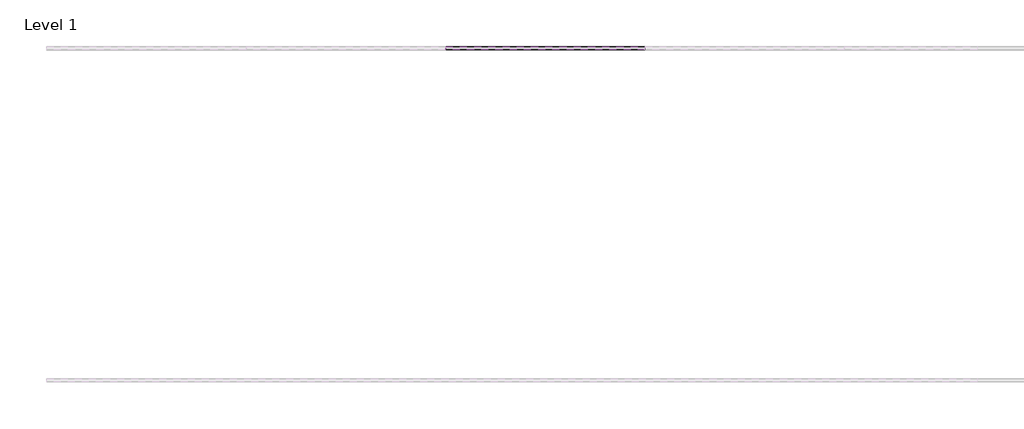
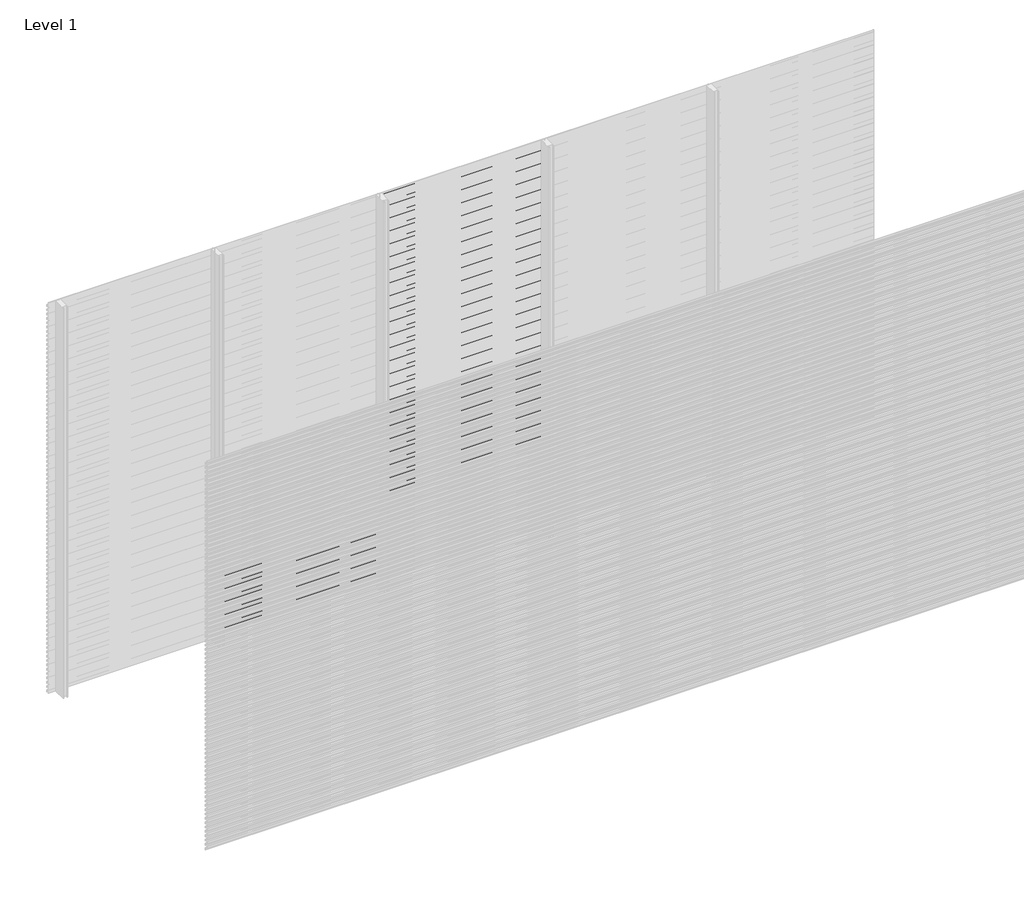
# One storey, part 72 of 507: 84 proxies.
"""IFC4 building model written with IfcOpenShell, lengths in millimetres."""

from ifc_helpers import new_model, si_unit, frame, origin, place, context, project, spatial, polyline, outline, extrude, element, save

model = new_model("IFC4")

# Units and contexts
model_context = context("Model", 3, world=origin())
ifc_project = project(units=[si_unit("LENGTHUNIT", "METRE", prefix="MILLI")], contexts=[model_context])

# Site, building, storey
site = spatial("IfcSite", under=ifc_project)
building = spatial("IfcBuilding", under=site)
storey = spatial("IfcBuildingStorey", under=building, Name="Level 1", Elevation=0.0)

# Proxies
placement = place(None, origin())
element("IfcBuildingElementProxy", 1, Name="Wall Sweeps", at=placement, inside=storey, context=model_context, shape_type="SweptSolid", body=[
    extrude(outline(polyline([(51503.4540136, 442.2), (51503.4540136, 428.7), (51502.2040136, 429.4216933), (51502.2040136, 441.4782281), (51483.0540136, 452.5345698), (51483.0540136, 466.2), (51484.3040136, 466.2), (51484.3040136, 453.2562577), (51503.4540136, 442.2)])), frame((46166.6208099, 0.0, 0.0), z_axis=(1.0, 0.0, 0.0), x_axis=(0.0, 1.0, 0.0)), (0.0, 0.0, 1.0), 1199.9999999),
])
element("IfcBuildingElementProxy", 2, Name="Wall Sweeps", at=placement, inside=storey, context=model_context, shape_type="SweptSolid", body=[
    extrude(outline(polyline([(51503.4540136, 408.9), (51503.4540136, 395.4), (51502.2040136, 396.1216933), (51502.2040136, 408.1782281), (51483.0540136, 419.2345698), (51483.0540136, 432.9), (51484.3040136, 432.9), (51484.3040136, 419.9562577), (51503.4540136, 408.9)])), frame((46166.6208099, 0.0, 0.0), z_axis=(1.0, 0.0, 0.0), x_axis=(0.0, 1.0, 0.0)), (0.0, 0.0, 1.0), 1199.9999999),
])
element("IfcBuildingElementProxy", 3, Name="Wall Sweeps", at=placement, inside=storey, context=model_context, shape_type="SweptSolid", body=[
    extrude(outline(polyline([(51503.4540136, 375.6), (51503.4540136, 362.1), (51502.2040136, 362.8216933), (51502.2040136, 374.8782281), (51483.0540136, 385.9345698), (51483.0540136, 399.6), (51484.3040136, 399.6), (51484.3040136, 386.6562577), (51503.4540136, 375.6)])), frame((46166.6208099, 0.0, 0.0), z_axis=(1.0, 0.0, 0.0), x_axis=(0.0, 1.0, 0.0)), (0.0, 0.0, 1.0), 1199.9999999),
])
element("IfcBuildingElementProxy", 4, Name="Wall Sweeps", at=placement, inside=storey, context=model_context, shape_type="SweptSolid", body=[
    extrude(outline(polyline([(51503.4540136, 342.3), (51503.4540136, 328.8), (51502.2040136, 329.5216933), (51502.2040136, 341.5782281), (51483.0540136, 352.6345698), (51483.0540136, 366.3), (51484.3040136, 366.3), (51484.3040136, 353.3562577), (51503.4540136, 342.3)])), frame((46166.6208099, 0.0, 0.0), z_axis=(1.0, 0.0, 0.0), x_axis=(0.0, 1.0, 0.0)), (0.0, 0.0, 1.0), 1199.9999999),
])
element("IfcBuildingElementProxy", 5, Name="Wall Sweeps", at=placement, inside=storey, context=model_context, shape_type="SweptSolid", body=[
    extrude(outline(polyline([(51503.4540136, 309.0), (51503.4540136, 295.5), (51502.2040136, 296.2216933), (51502.2040136, 308.2782281), (51483.0540136, 319.3345698), (51483.0540136, 333.0), (51484.3040136, 333.0), (51484.3040136, 320.0562577), (51503.4540136, 309.0)])), frame((46166.6208099, 0.0, 0.0), z_axis=(1.0, 0.0, 0.0), x_axis=(0.0, 1.0, 0.0)), (0.0, 0.0, 1.0), 1199.9999999),
])
element("IfcBuildingElementProxy", 6, Name="Wall Sweeps", at=placement, inside=storey, context=model_context, shape_type="SweptSolid", body=[
    extrude(outline(polyline([(51503.4540136, 275.7), (51503.4540136, 262.2), (51502.2040136, 262.9216933), (51502.2040136, 274.9782281), (51483.0540136, 286.0345698), (51483.0540136, 299.7), (51484.3040136, 299.7), (51484.3040136, 286.7562577), (51503.4540136, 275.7)])), frame((46166.6208099, 0.0, 0.0), z_axis=(1.0, 0.0, 0.0), x_axis=(0.0, 1.0, 0.0)), (0.0, 0.0, 1.0), 1199.9999999),
])
element("IfcBuildingElementProxy", 7, Name="Wall Sweeps", at=placement, inside=storey, context=model_context, shape_type="SweptSolid", body=[
    extrude(outline(polyline([(51503.4540136, 242.4), (51503.4540136, 228.9), (51502.2040136, 229.6216933), (51502.2040136, 241.6782281), (51483.0540136, 252.7345698), (51483.0540136, 266.4), (51484.3040136, 266.4), (51484.3040136, 253.4562577), (51503.4540136, 242.4)])), frame((46166.6208099, 0.0, 0.0), z_axis=(1.0, 0.0, 0.0), x_axis=(0.0, 1.0, 0.0)), (0.0, 0.0, 1.0), 1199.9999999),
])
element("IfcBuildingElementProxy", 8, Name="Wall Sweeps", at=placement, inside=storey, context=model_context, shape_type="SweptSolid", body=[
    extrude(outline(polyline([(51503.4540136, 209.1), (51503.4540136, 195.6), (51502.2040136, 196.3216933), (51502.2040136, 208.3782281), (51483.0540136, 219.4345698), (51483.0540136, 233.1), (51484.3040136, 233.1), (51484.3040136, 220.1562577), (51503.4540136, 209.1)])), frame((46166.6208099, 0.0, 0.0), z_axis=(1.0, 0.0, 0.0), x_axis=(0.0, 1.0, 0.0)), (0.0, 0.0, 1.0), 1199.9999999),
])
element("IfcBuildingElementProxy", 9, Name="Wall Sweeps", at=placement, inside=storey, context=model_context, shape_type="SweptSolid", body=[
    extrude(outline(polyline([(51503.4540136, 175.8), (51503.4540136, 162.3), (51502.2040136, 163.0216933), (51502.2040136, 175.0782281), (51483.0540136, 186.1345698), (51483.0540136, 199.8), (51484.3040136, 199.8), (51484.3040136, 186.8562577), (51503.4540136, 175.8)])), frame((46166.6208099, 0.0, 0.0), z_axis=(1.0, 0.0, 0.0), x_axis=(0.0, 1.0, 0.0)), (0.0, 0.0, 1.0), 1199.9999999),
])
element("IfcBuildingElementProxy", 10, Name="Wall Sweeps", at=placement, inside=storey, context=model_context, shape_type="SweptSolid", body=[
    extrude(outline(polyline([(51503.4540136, 142.5), (51503.4540136, 129.0), (51502.2040136, 129.7216933), (51502.2040136, 141.7782281), (51483.0540136, 152.8345698), (51483.0540136, 166.5), (51484.3040136, 166.5), (51484.3040136, 153.5562577), (51503.4540136, 142.5)])), frame((46166.6208099, 0.0, 0.0), z_axis=(1.0, 0.0, 0.0), x_axis=(0.0, 1.0, 0.0)), (0.0, 0.0, 1.0), 1199.9999999),
])
element("IfcBuildingElementProxy", 11, Name="Wall Sweeps", at=placement, inside=storey, context=model_context, shape_type="SweptSolid", body=[
    extrude(outline(polyline([(51503.4540136, 109.2), (51503.4540136, 95.7), (51502.2040136, 96.4216933), (51502.2040136, 108.4782281), (51483.0540136, 119.5345698), (51483.0540136, 133.2), (51484.3040136, 133.2), (51484.3040136, 120.2562577), (51503.4540136, 109.2)])), frame((46166.6208099, 0.0, 0.0), z_axis=(1.0, 0.0, 0.0), x_axis=(0.0, 1.0, 0.0)), (0.0, 0.0, 1.0), 1199.9999999),
])
element("IfcBuildingElementProxy", 12, Name="Wall Sweeps", at=placement, inside=storey, context=model_context, shape_type="SweptSolid", body=[
    extrude(outline(polyline([(51503.4540136, 75.9), (51503.4540136, 62.4), (51502.2040136, 63.1216933), (51502.2040136, 75.1782281), (51483.0540136, 86.2345698), (51483.0540136, 99.9), (51484.3040136, 99.9), (51484.3040136, 86.9562577), (51503.4540136, 75.9)])), frame((46166.6208099, 0.0, 0.0), z_axis=(1.0, 0.0, 0.0), x_axis=(0.0, 1.0, 0.0)), (0.0, 0.0, 1.0), 1199.9999999),
])
element("IfcBuildingElementProxy", 13, Name="Wall Sweeps", at=placement, inside=storey, context=model_context, shape_type="SweptSolid", body=[
    extrude(outline(polyline([(51503.4540136, 42.6), (51503.4540136, 29.1), (51502.2040136, 29.8216933), (51502.2040136, 41.8782281), (51483.0540136, 52.9345698), (51483.0540136, 66.6), (51484.3040136, 66.6), (51484.3040136, 53.6562577), (51503.4540136, 42.6)])), frame((46166.6208099, 0.0, 0.0), z_axis=(1.0, 0.0, 0.0), x_axis=(0.0, 1.0, 0.0)), (0.0, 0.0, 1.0), 1199.9999999),
])
element("IfcBuildingElementProxy", 14, Name="Wall Sweeps", at=placement, inside=storey, context=model_context, shape_type="SweptSolid", body=[
    extrude(outline(polyline([(51503.4540136, 9.3), (51503.4540136, -4.2), (51502.2040136, -3.4783067), (51502.2040136, 8.5782281), (51483.0540136, 19.6345698), (51483.0540136, 33.3), (51484.3040136, 33.3), (51484.3040136, 20.3562577), (51503.4540136, 9.3)])), frame((46166.6208099, 0.0, 0.0), z_axis=(1.0, 0.0, 0.0), x_axis=(0.0, 1.0, 0.0)), (0.0, 0.0, 1.0), 1199.9999999),
])
element("IfcBuildingElementProxy", 15, Name="Wall Sweeps", at=placement, inside=storey, context=model_context, shape_type="SweptSolid", body=[
    extrude(outline(polyline([(51503.4540136, 2973.0), (51503.4540136, 2959.5), (51502.2040136, 2960.2216933), (51502.2040136, 2972.2782281), (51483.0540136, 2983.3345698), (51483.0540136, 2997.0), (51484.3040136, 2997.0), (51484.3040136, 2984.0562577), (51503.4540136, 2973.0)])), frame((47366.6208097, 0.0, 0.0), z_axis=(1.0, 0.0, 0.0), x_axis=(0.0, 1.0, 0.0)), (0.0, 0.0, 1.0), 1199.9999999),
])
element("IfcBuildingElementProxy", 16, Name="Wall Sweeps", at=placement, inside=storey, context=model_context, shape_type="SweptSolid", body=[
    extrude(outline(polyline([(51503.4540136, 2939.7), (51503.4540136, 2926.2), (51502.2040136, 2926.9216933), (51502.2040136, 2938.9782281), (51483.0540136, 2950.0345698), (51483.0540136, 2963.7), (51484.3040136, 2963.7), (51484.3040136, 2950.7562577), (51503.4540136, 2939.7)])), frame((47366.6208097, 0.0, 0.0), z_axis=(1.0, 0.0, 0.0), x_axis=(0.0, 1.0, 0.0)), (0.0, 0.0, 1.0), 1199.9999999),
])
element("IfcBuildingElementProxy", 17, Name="Wall Sweeps", at=placement, inside=storey, context=model_context, shape_type="SweptSolid", body=[
    extrude(outline(polyline([(51503.4540136, 2906.4), (51503.4540136, 2892.9), (51502.2040136, 2893.6216933), (51502.2040136, 2905.6782281), (51483.0540136, 2916.7345698), (51483.0540136, 2930.4), (51484.3040136, 2930.4), (51484.3040136, 2917.4562577), (51503.4540136, 2906.4)])), frame((47366.6208097, 0.0, 0.0), z_axis=(1.0, 0.0, 0.0), x_axis=(0.0, 1.0, 0.0)), (0.0, 0.0, 1.0), 1199.9999999),
])
element("IfcBuildingElementProxy", 18, Name="Wall Sweeps", at=placement, inside=storey, context=model_context, shape_type="SweptSolid", body=[
    extrude(outline(polyline([(51503.4540136, 2873.1), (51503.4540136, 2859.6), (51502.2040136, 2860.3216933), (51502.2040136, 2872.3782281), (51483.0540136, 2883.4345698), (51483.0540136, 2897.1), (51484.3040136, 2897.1), (51484.3040136, 2884.1562577), (51503.4540136, 2873.1)])), frame((47366.6208097, 0.0, 0.0), z_axis=(1.0, 0.0, 0.0), x_axis=(0.0, 1.0, 0.0)), (0.0, 0.0, 1.0), 1199.9999999),
])
element("IfcBuildingElementProxy", 19, Name="Wall Sweeps", at=placement, inside=storey, context=model_context, shape_type="SweptSolid", body=[
    extrude(outline(polyline([(51503.4540136, 2839.8), (51503.4540136, 2826.3), (51502.2040136, 2827.0216933), (51502.2040136, 2839.0782281), (51483.0540136, 2850.1345698), (51483.0540136, 2863.8), (51484.3040136, 2863.8), (51484.3040136, 2850.8562577), (51503.4540136, 2839.8)])), frame((47366.6208097, 0.0, 0.0), z_axis=(1.0, 0.0, 0.0), x_axis=(0.0, 1.0, 0.0)), (0.0, 0.0, 1.0), 1199.9999999),
])
element("IfcBuildingElementProxy", 20, Name="Wall Sweeps", at=placement, inside=storey, context=model_context, shape_type="SweptSolid", body=[
    extrude(outline(polyline([(51503.4540136, 2806.5), (51503.4540136, 2793.0), (51502.2040136, 2793.7216933), (51502.2040136, 2805.7782281), (51483.0540136, 2816.8345698), (51483.0540136, 2830.5), (51484.3040136, 2830.5), (51484.3040136, 2817.5562577), (51503.4540136, 2806.5)])), frame((47366.6208097, 0.0, 0.0), z_axis=(1.0, 0.0, 0.0), x_axis=(0.0, 1.0, 0.0)), (0.0, 0.0, 1.0), 1199.9999999),
])
element("IfcBuildingElementProxy", 21, Name="Wall Sweeps", at=placement, inside=storey, context=model_context, shape_type="SweptSolid", body=[
    extrude(outline(polyline([(51503.4540136, 2773.2), (51503.4540136, 2759.7), (51502.2040136, 2760.4216933), (51502.2040136, 2772.4782281), (51483.0540136, 2783.5345698), (51483.0540136, 2797.2), (51484.3040136, 2797.2), (51484.3040136, 2784.2562577), (51503.4540136, 2773.2)])), frame((47366.6208097, 0.0, 0.0), z_axis=(1.0, 0.0, 0.0), x_axis=(0.0, 1.0, 0.0)), (0.0, 0.0, 1.0), 1199.9999999),
])
element("IfcBuildingElementProxy", 22, Name="Wall Sweeps", at=placement, inside=storey, context=model_context, shape_type="SweptSolid", body=[
    extrude(outline(polyline([(51503.4540136, 2739.9), (51503.4540136, 2726.4), (51502.2040136, 2727.1216933), (51502.2040136, 2739.1782281), (51483.0540136, 2750.2345698), (51483.0540136, 2763.9), (51484.3040136, 2763.9), (51484.3040136, 2750.9562577), (51503.4540136, 2739.9)])), frame((47366.6208097, 0.0, 0.0), z_axis=(1.0, 0.0, 0.0), x_axis=(0.0, 1.0, 0.0)), (0.0, 0.0, 1.0), 1199.9999999),
])
element("IfcBuildingElementProxy", 23, Name="Wall Sweeps", at=placement, inside=storey, context=model_context, shape_type="SweptSolid", body=[
    extrude(outline(polyline([(51503.4540136, 2706.6), (51503.4540136, 2693.1), (51502.2040136, 2693.8216933), (51502.2040136, 2705.8782281), (51483.0540136, 2716.9345698), (51483.0540136, 2730.6), (51484.3040136, 2730.6), (51484.3040136, 2717.6562577), (51503.4540136, 2706.6)])), frame((47366.6208097, 0.0, 0.0), z_axis=(1.0, 0.0, 0.0), x_axis=(0.0, 1.0, 0.0)), (0.0, 0.0, 1.0), 1199.9999999),
])
element("IfcBuildingElementProxy", 24, Name="Wall Sweeps", at=placement, inside=storey, context=model_context, shape_type="SweptSolid", body=[
    extrude(outline(polyline([(51503.4540136, 2673.3), (51503.4540136, 2659.8), (51502.2040136, 2660.5216933), (51502.2040136, 2672.5782281), (51483.0540136, 2683.6345698), (51483.0540136, 2697.3), (51484.3040136, 2697.3), (51484.3040136, 2684.3562577), (51503.4540136, 2673.3)])), frame((47366.6208097, 0.0, 0.0), z_axis=(1.0, 0.0, 0.0), x_axis=(0.0, 1.0, 0.0)), (0.0, 0.0, 1.0), 1199.9999999),
])
element("IfcBuildingElementProxy", 25, Name="Wall Sweeps", at=placement, inside=storey, context=model_context, shape_type="SweptSolid", body=[
    extrude(outline(polyline([(51503.4540136, 2640.0), (51503.4540136, 2626.5), (51502.2040136, 2627.2216933), (51502.2040136, 2639.2782281), (51483.0540136, 2650.3345698), (51483.0540136, 2664.0), (51484.3040136, 2664.0), (51484.3040136, 2651.0562577), (51503.4540136, 2640.0)])), frame((47366.6208097, 0.0, 0.0), z_axis=(1.0, 0.0, 0.0), x_axis=(0.0, 1.0, 0.0)), (0.0, 0.0, 1.0), 1199.9999999),
])
element("IfcBuildingElementProxy", 26, Name="Wall Sweeps", at=placement, inside=storey, context=model_context, shape_type="SweptSolid", body=[
    extrude(outline(polyline([(51503.4540136, 2606.7), (51503.4540136, 2593.2), (51502.2040136, 2593.9216933), (51502.2040136, 2605.9782281), (51483.0540136, 2617.0345698), (51483.0540136, 2630.7), (51484.3040136, 2630.7), (51484.3040136, 2617.7562577), (51503.4540136, 2606.7)])), frame((47366.6208097, 0.0, 0.0), z_axis=(1.0, 0.0, 0.0), x_axis=(0.0, 1.0, 0.0)), (0.0, 0.0, 1.0), 1199.9999999),
])
element("IfcBuildingElementProxy", 27, Name="Wall Sweeps", at=placement, inside=storey, context=model_context, shape_type="SweptSolid", body=[
    extrude(outline(polyline([(51503.4540136, 2573.4), (51503.4540136, 2559.9), (51502.2040136, 2560.6216933), (51502.2040136, 2572.6782281), (51483.0540136, 2583.7345698), (51483.0540136, 2597.4), (51484.3040136, 2597.4), (51484.3040136, 2584.4562577), (51503.4540136, 2573.4)])), frame((47366.6208097, 0.0, 0.0), z_axis=(1.0, 0.0, 0.0), x_axis=(0.0, 1.0, 0.0)), (0.0, 0.0, 1.0), 1199.9999999),
])
element("IfcBuildingElementProxy", 28, Name="Wall Sweeps", at=placement, inside=storey, context=model_context, shape_type="SweptSolid", body=[
    extrude(outline(polyline([(51503.4540136, 2540.1), (51503.4540136, 2526.6), (51502.2040136, 2527.3216933), (51502.2040136, 2539.3782281), (51483.0540136, 2550.4345698), (51483.0540136, 2564.1), (51484.3040136, 2564.1), (51484.3040136, 2551.1562577), (51503.4540136, 2540.1)])), frame((47366.6208097, 0.0, 0.0), z_axis=(1.0, 0.0, 0.0), x_axis=(0.0, 1.0, 0.0)), (0.0, 0.0, 1.0), 1199.9999999),
])
element("IfcBuildingElementProxy", 29, Name="Wall Sweeps", at=placement, inside=storey, context=model_context, shape_type="SweptSolid", body=[
    extrude(outline(polyline([(51503.4540136, 2506.8), (51503.4540136, 2493.3), (51502.2040136, 2494.0216933), (51502.2040136, 2506.0782281), (51483.0540136, 2517.1345698), (51483.0540136, 2530.8), (51484.3040136, 2530.8), (51484.3040136, 2517.8562577), (51503.4540136, 2506.8)])), frame((47366.6208097, 0.0, 0.0), z_axis=(1.0, 0.0, 0.0), x_axis=(0.0, 1.0, 0.0)), (0.0, 0.0, 1.0), 1199.9999999),
])
element("IfcBuildingElementProxy", 30, Name="Wall Sweeps", at=placement, inside=storey, context=model_context, shape_type="SweptSolid", body=[
    extrude(outline(polyline([(51503.4540136, 2473.5), (51503.4540136, 2460.0), (51502.2040136, 2460.7216933), (51502.2040136, 2472.7782281), (51483.0540136, 2483.8345698), (51483.0540136, 2497.5), (51484.3040136, 2497.5), (51484.3040136, 2484.5562577), (51503.4540136, 2473.5)])), frame((47366.6208097, 0.0, 0.0), z_axis=(1.0, 0.0, 0.0), x_axis=(0.0, 1.0, 0.0)), (0.0, 0.0, 1.0), 1199.9999999),
])
element("IfcBuildingElementProxy", 31, Name="Wall Sweeps", at=placement, inside=storey, context=model_context, shape_type="SweptSolid", body=[
    extrude(outline(polyline([(51503.4540136, 2440.2), (51503.4540136, 2426.7), (51502.2040136, 2427.4216933), (51502.2040136, 2439.4782281), (51483.0540136, 2450.5345698), (51483.0540136, 2464.2), (51484.3040136, 2464.2), (51484.3040136, 2451.2562577), (51503.4540136, 2440.2)])), frame((47366.6208097, 0.0, 0.0), z_axis=(1.0, 0.0, 0.0), x_axis=(0.0, 1.0, 0.0)), (0.0, 0.0, 1.0), 1199.9999999),
])
element("IfcBuildingElementProxy", 32, Name="Wall Sweeps", at=placement, inside=storey, context=model_context, shape_type="SweptSolid", body=[
    extrude(outline(polyline([(51503.4540136, 2406.9), (51503.4540136, 2393.4), (51502.2040136, 2394.1216933), (51502.2040136, 2406.1782281), (51483.0540136, 2417.2345698), (51483.0540136, 2430.9), (51484.3040136, 2430.9), (51484.3040136, 2417.9562577), (51503.4540136, 2406.9)])), frame((47366.6208097, 0.0, 0.0), z_axis=(1.0, 0.0, 0.0), x_axis=(0.0, 1.0, 0.0)), (0.0, 0.0, 1.0), 1199.9999999),
])
element("IfcBuildingElementProxy", 33, Name="Wall Sweeps", at=placement, inside=storey, context=model_context, shape_type="SweptSolid", body=[
    extrude(outline(polyline([(51503.4540136, 2373.6), (51503.4540136, 2360.1), (51502.2040136, 2360.8216933), (51502.2040136, 2372.8782281), (51483.0540136, 2383.9345698), (51483.0540136, 2397.6), (51484.3040136, 2397.6), (51484.3040136, 2384.6562577), (51503.4540136, 2373.6)])), frame((47366.6208097, 0.0, 0.0), z_axis=(1.0, 0.0, 0.0), x_axis=(0.0, 1.0, 0.0)), (0.0, 0.0, 1.0), 1199.9999999),
])
element("IfcBuildingElementProxy", 34, Name="Wall Sweeps", at=placement, inside=storey, context=model_context, shape_type="SweptSolid", body=[
    extrude(outline(polyline([(51503.4540136, 2340.3), (51503.4540136, 2326.8), (51502.2040136, 2327.5216933), (51502.2040136, 2339.5782281), (51483.0540136, 2350.6345698), (51483.0540136, 2364.3), (51484.3040136, 2364.3), (51484.3040136, 2351.3562577), (51503.4540136, 2340.3)])), frame((47366.6208097, 0.0, 0.0), z_axis=(1.0, 0.0, 0.0), x_axis=(0.0, 1.0, 0.0)), (0.0, 0.0, 1.0), 1199.9999999),
])
element("IfcBuildingElementProxy", 35, Name="Wall Sweeps", at=placement, inside=storey, context=model_context, shape_type="SweptSolid", body=[
    extrude(outline(polyline([(51503.4540136, 2307.0), (51503.4540136, 2293.5), (51502.2040136, 2294.2216933), (51502.2040136, 2306.2782281), (51483.0540136, 2317.3345698), (51483.0540136, 2331.0), (51484.3040136, 2331.0), (51484.3040136, 2318.0562577), (51503.4540136, 2307.0)])), frame((47366.6208097, 0.0, 0.0), z_axis=(1.0, 0.0, 0.0), x_axis=(0.0, 1.0, 0.0)), (0.0, 0.0, 1.0), 1199.9999999),
])
element("IfcBuildingElementProxy", 36, Name="Wall Sweeps", at=placement, inside=storey, context=model_context, shape_type="SweptSolid", body=[
    extrude(outline(polyline([(51503.4540136, 2273.7), (51503.4540136, 2260.2), (51502.2040136, 2260.9216933), (51502.2040136, 2272.9782281), (51483.0540136, 2284.0345698), (51483.0540136, 2297.7), (51484.3040136, 2297.7), (51484.3040136, 2284.7562577), (51503.4540136, 2273.7)])), frame((47366.6208097, 0.0, 0.0), z_axis=(1.0, 0.0, 0.0), x_axis=(0.0, 1.0, 0.0)), (0.0, 0.0, 1.0), 1199.9999999),
])
element("IfcBuildingElementProxy", 37, Name="Wall Sweeps", at=placement, inside=storey, context=model_context, shape_type="SweptSolid", body=[
    extrude(outline(polyline([(51503.4540136, 2240.4), (51503.4540136, 2226.9), (51502.2040136, 2227.6216933), (51502.2040136, 2239.6782281), (51483.0540136, 2250.7345698), (51483.0540136, 2264.4), (51484.3040136, 2264.4), (51484.3040136, 2251.4562577), (51503.4540136, 2240.4)])), frame((47366.6208097, 0.0, 0.0), z_axis=(1.0, 0.0, 0.0), x_axis=(0.0, 1.0, 0.0)), (0.0, 0.0, 1.0), 1199.9999999),
])
element("IfcBuildingElementProxy", 38, Name="Wall Sweeps", at=placement, inside=storey, context=model_context, shape_type="SweptSolid", body=[
    extrude(outline(polyline([(51503.4540136, 2207.1), (51503.4540136, 2193.6), (51502.2040136, 2194.3216933), (51502.2040136, 2206.3782281), (51483.0540136, 2217.4345698), (51483.0540136, 2231.1), (51484.3040136, 2231.1), (51484.3040136, 2218.1562577), (51503.4540136, 2207.1)])), frame((47366.6208097, 0.0, 0.0), z_axis=(1.0, 0.0, 0.0), x_axis=(0.0, 1.0, 0.0)), (0.0, 0.0, 1.0), 1199.9999999),
])
element("IfcBuildingElementProxy", 39, Name="Wall Sweeps", at=placement, inside=storey, context=model_context, shape_type="SweptSolid", body=[
    extrude(outline(polyline([(51503.4540136, 2173.8), (51503.4540136, 2160.3), (51502.2040136, 2161.0216933), (51502.2040136, 2173.0782281), (51483.0540136, 2184.1345698), (51483.0540136, 2197.8), (51484.3040136, 2197.8), (51484.3040136, 2184.8562577), (51503.4540136, 2173.8)])), frame((47366.6208097, 0.0, 0.0), z_axis=(1.0, 0.0, 0.0), x_axis=(0.0, 1.0, 0.0)), (0.0, 0.0, 1.0), 1199.9999999),
])
element("IfcBuildingElementProxy", 40, Name="Wall Sweeps", at=placement, inside=storey, context=model_context, shape_type="SweptSolid", body=[
    extrude(outline(polyline([(51503.4540136, 2140.5), (51503.4540136, 2127.0), (51502.2040136, 2127.7216933), (51502.2040136, 2139.7782281), (51483.0540136, 2150.8345698), (51483.0540136, 2164.5), (51484.3040136, 2164.5), (51484.3040136, 2151.5562577), (51503.4540136, 2140.5)])), frame((47366.6208097, 0.0, 0.0), z_axis=(1.0, 0.0, 0.0), x_axis=(0.0, 1.0, 0.0)), (0.0, 0.0, 1.0), 1199.9999999),
])
element("IfcBuildingElementProxy", 41, Name="Wall Sweeps", at=placement, inside=storey, context=model_context, shape_type="SweptSolid", body=[
    extrude(outline(polyline([(51503.4540136, 2107.2), (51503.4540136, 2093.7), (51502.2040136, 2094.4216933), (51502.2040136, 2106.4782281), (51483.0540136, 2117.5345698), (51483.0540136, 2131.2), (51484.3040136, 2131.2), (51484.3040136, 2118.2562577), (51503.4540136, 2107.2)])), frame((47366.6208097, 0.0, 0.0), z_axis=(1.0, 0.0, 0.0), x_axis=(0.0, 1.0, 0.0)), (0.0, 0.0, 1.0), 1199.9999999),
])
element("IfcBuildingElementProxy", 42, Name="Wall Sweeps", at=placement, inside=storey, context=model_context, shape_type="SweptSolid", body=[
    extrude(outline(polyline([(51503.4540136, 2073.9), (51503.4540136, 2060.4), (51502.2040136, 2061.1216933), (51502.2040136, 2073.1782281), (51483.0540136, 2084.2345698), (51483.0540136, 2097.9), (51484.3040136, 2097.9), (51484.3040136, 2084.9562577), (51503.4540136, 2073.9)])), frame((47366.6208097, 0.0, 0.0), z_axis=(1.0, 0.0, 0.0), x_axis=(0.0, 1.0, 0.0)), (0.0, 0.0, 1.0), 1199.9999999),
])
element("IfcBuildingElementProxy", 43, Name="Wall Sweeps", at=placement, inside=storey, context=model_context, shape_type="SweptSolid", body=[
    extrude(outline(polyline([(51503.4540136, 2040.6), (51503.4540136, 2027.1), (51502.2040136, 2027.8216933), (51502.2040136, 2039.8782281), (51483.0540136, 2050.9345698), (51483.0540136, 2064.6), (51484.3040136, 2064.6), (51484.3040136, 2051.6562577), (51503.4540136, 2040.6)])), frame((47366.6208097, 0.0, 0.0), z_axis=(1.0, 0.0, 0.0), x_axis=(0.0, 1.0, 0.0)), (0.0, 0.0, 1.0), 1199.9999999),
])
element("IfcBuildingElementProxy", 44, Name="Wall Sweeps", at=placement, inside=storey, context=model_context, shape_type="SweptSolid", body=[
    extrude(outline(polyline([(51503.4540136, 2007.3), (51503.4540136, 1993.8), (51502.2040136, 1994.5216933), (51502.2040136, 2006.5782281), (51483.0540136, 2017.6345698), (51483.0540136, 2031.3), (51484.3040136, 2031.3), (51484.3040136, 2018.3562577), (51503.4540136, 2007.3)])), frame((47366.6208097, 0.0, 0.0), z_axis=(1.0, 0.0, 0.0), x_axis=(0.0, 1.0, 0.0)), (0.0, 0.0, 1.0), 1199.9999999),
])
element("IfcBuildingElementProxy", 45, Name="Wall Sweeps", at=placement, inside=storey, context=model_context, shape_type="SweptSolid", body=[
    extrude(outline(polyline([(51503.4540136, 1974.0), (51503.4540136, 1960.5), (51502.2040136, 1961.2216933), (51502.2040136, 1973.2782281), (51483.0540136, 1984.3345698), (51483.0540136, 1998.0), (51484.3040136, 1998.0), (51484.3040136, 1985.0562577), (51503.4540136, 1974.0)])), frame((47366.6208097, 0.0, 0.0), z_axis=(1.0, 0.0, 0.0), x_axis=(0.0, 1.0, 0.0)), (0.0, 0.0, 1.0), 1199.9999999),
])
element("IfcBuildingElementProxy", 46, Name="Wall Sweeps", at=placement, inside=storey, context=model_context, shape_type="SweptSolid", body=[
    extrude(outline(polyline([(51503.4540136, 1940.7), (51503.4540136, 1927.2), (51502.2040136, 1927.9216933), (51502.2040136, 1939.9782281), (51483.0540136, 1951.0345698), (51483.0540136, 1964.7), (51484.3040136, 1964.7), (51484.3040136, 1951.7562577), (51503.4540136, 1940.7)])), frame((47366.6208097, 0.0, 0.0), z_axis=(1.0, 0.0, 0.0), x_axis=(0.0, 1.0, 0.0)), (0.0, 0.0, 1.0), 1199.9999999),
])
element("IfcBuildingElementProxy", 47, Name="Wall Sweeps", at=placement, inside=storey, context=model_context, shape_type="SweptSolid", body=[
    extrude(outline(polyline([(51503.4540136, 1907.4), (51503.4540136, 1893.9), (51502.2040136, 1894.6216933), (51502.2040136, 1906.6782281), (51483.0540136, 1917.7345698), (51483.0540136, 1931.4), (51484.3040136, 1931.4), (51484.3040136, 1918.4562577), (51503.4540136, 1907.4)])), frame((47366.6208097, 0.0, 0.0), z_axis=(1.0, 0.0, 0.0), x_axis=(0.0, 1.0, 0.0)), (0.0, 0.0, 1.0), 1199.9999999),
])
element("IfcBuildingElementProxy", 48, Name="Wall Sweeps", at=placement, inside=storey, context=model_context, shape_type="SweptSolid", body=[
    extrude(outline(polyline([(51503.4540136, 1874.1), (51503.4540136, 1860.6), (51502.2040136, 1861.3216933), (51502.2040136, 1873.3782281), (51483.0540136, 1884.4345698), (51483.0540136, 1898.1), (51484.3040136, 1898.1), (51484.3040136, 1885.1562577), (51503.4540136, 1874.1)])), frame((47366.6208097, 0.0, 0.0), z_axis=(1.0, 0.0, 0.0), x_axis=(0.0, 1.0, 0.0)), (0.0, 0.0, 1.0), 1199.9999999),
])
element("IfcBuildingElementProxy", 49, Name="Wall Sweeps", at=placement, inside=storey, context=model_context, shape_type="SweptSolid", body=[
    extrude(outline(polyline([(51503.4540136, 1840.8), (51503.4540136, 1827.3), (51502.2040136, 1828.0216933), (51502.2040136, 1840.0782281), (51483.0540136, 1851.1345698), (51483.0540136, 1864.8), (51484.3040136, 1864.8), (51484.3040136, 1851.8562577), (51503.4540136, 1840.8)])), frame((47366.6208097, 0.0, 0.0), z_axis=(1.0, 0.0, 0.0), x_axis=(0.0, 1.0, 0.0)), (0.0, 0.0, 1.0), 1199.9999999),
])
element("IfcBuildingElementProxy", 50, Name="Wall Sweeps", at=placement, inside=storey, context=model_context, shape_type="SweptSolid", body=[
    extrude(outline(polyline([(51503.4540136, 1807.5), (51503.4540136, 1794.0), (51502.2040136, 1794.7216933), (51502.2040136, 1806.7782281), (51483.0540136, 1817.8345698), (51483.0540136, 1831.5), (51484.3040136, 1831.5), (51484.3040136, 1818.5562577), (51503.4540136, 1807.5)])), frame((47366.6208097, 0.0, 0.0), z_axis=(1.0, 0.0, 0.0), x_axis=(0.0, 1.0, 0.0)), (0.0, 0.0, 1.0), 1199.9999999),
])
element("IfcBuildingElementProxy", 51, Name="Wall Sweeps", at=placement, inside=storey, context=model_context, shape_type="SweptSolid", body=[
    extrude(outline(polyline([(51503.4540136, 1774.2), (51503.4540136, 1760.7), (51502.2040136, 1761.4216933), (51502.2040136, 1773.4782281), (51483.0540136, 1784.5345698), (51483.0540136, 1798.2), (51484.3040136, 1798.2), (51484.3040136, 1785.2562577), (51503.4540136, 1774.2)])), frame((47366.6208097, 0.0, 0.0), z_axis=(1.0, 0.0, 0.0), x_axis=(0.0, 1.0, 0.0)), (0.0, 0.0, 1.0), 1199.9999999),
])
element("IfcBuildingElementProxy", 52, Name="Wall Sweeps", at=placement, inside=storey, context=model_context, shape_type="SweptSolid", body=[
    extrude(outline(polyline([(51503.4540136, 1740.9), (51503.4540136, 1727.4), (51502.2040136, 1728.1216933), (51502.2040136, 1740.1782281), (51483.0540136, 1751.2345698), (51483.0540136, 1764.9), (51484.3040136, 1764.9), (51484.3040136, 1751.9562577), (51503.4540136, 1740.9)])), frame((47366.6208097, 0.0, 0.0), z_axis=(1.0, 0.0, 0.0), x_axis=(0.0, 1.0, 0.0)), (0.0, 0.0, 1.0), 1199.9999999),
])
element("IfcBuildingElementProxy", 53, Name="Wall Sweeps", at=placement, inside=storey, context=model_context, shape_type="SweptSolid", body=[
    extrude(outline(polyline([(51503.4540136, 1707.6), (51503.4540136, 1694.1), (51502.2040136, 1694.8216933), (51502.2040136, 1706.8782281), (51483.0540136, 1717.9345698), (51483.0540136, 1731.6), (51484.3040136, 1731.6), (51484.3040136, 1718.6562577), (51503.4540136, 1707.6)])), frame((47366.6208097, 0.0, 0.0), z_axis=(1.0, 0.0, 0.0), x_axis=(0.0, 1.0, 0.0)), (0.0, 0.0, 1.0), 1199.9999999),
])
element("IfcBuildingElementProxy", 54, Name="Wall Sweeps", at=placement, inside=storey, context=model_context, shape_type="SweptSolid", body=[
    extrude(outline(polyline([(51503.4540136, 1674.3), (51503.4540136, 1660.8), (51502.2040136, 1661.5216933), (51502.2040136, 1673.5782281), (51483.0540136, 1684.6345698), (51483.0540136, 1698.3), (51484.3040136, 1698.3), (51484.3040136, 1685.3562577), (51503.4540136, 1674.3)])), frame((47366.6208097, 0.0, 0.0), z_axis=(1.0, 0.0, 0.0), x_axis=(0.0, 1.0, 0.0)), (0.0, 0.0, 1.0), 1199.9999999),
])
element("IfcBuildingElementProxy", 55, Name="Wall Sweeps", at=placement, inside=storey, context=model_context, shape_type="SweptSolid", body=[
    extrude(outline(polyline([(51503.4540136, 1641.0), (51503.4540136, 1627.5), (51502.2040136, 1628.2216933), (51502.2040136, 1640.2782281), (51483.0540136, 1651.3345698), (51483.0540136, 1665.0), (51484.3040136, 1665.0), (51484.3040136, 1652.0562577), (51503.4540136, 1641.0)])), frame((47366.6208097, 0.0, 0.0), z_axis=(1.0, 0.0, 0.0), x_axis=(0.0, 1.0, 0.0)), (0.0, 0.0, 1.0), 1199.9999999),
])
element("IfcBuildingElementProxy", 56, Name="Wall Sweeps", at=placement, inside=storey, context=model_context, shape_type="SweptSolid", body=[
    extrude(outline(polyline([(51503.4540136, 1607.7), (51503.4540136, 1594.2), (51502.2040136, 1594.9216933), (51502.2040136, 1606.9782281), (51483.0540136, 1618.0345698), (51483.0540136, 1631.7), (51484.3040136, 1631.7), (51484.3040136, 1618.7562577), (51503.4540136, 1607.7)])), frame((47366.6208097, 0.0, 0.0), z_axis=(1.0, 0.0, 0.0), x_axis=(0.0, 1.0, 0.0)), (0.0, 0.0, 1.0), 1199.9999999),
])
element("IfcBuildingElementProxy", 57, Name="Wall Sweeps", at=placement, inside=storey, context=model_context, shape_type="SweptSolid", body=[
    extrude(outline(polyline([(51503.4540136, 1574.4), (51503.4540136, 1560.9), (51502.2040136, 1561.6216933), (51502.2040136, 1573.6782281), (51483.0540136, 1584.7345698), (51483.0540136, 1598.4), (51484.3040136, 1598.4), (51484.3040136, 1585.4562577), (51503.4540136, 1574.4)])), frame((47366.6208097, 0.0, 0.0), z_axis=(1.0, 0.0, 0.0), x_axis=(0.0, 1.0, 0.0)), (0.0, 0.0, 1.0), 1199.9999999),
])
element("IfcBuildingElementProxy", 58, Name="Wall Sweeps", at=placement, inside=storey, context=model_context, shape_type="SweptSolid", body=[
    extrude(outline(polyline([(51503.4540136, 1541.1), (51503.4540136, 1527.6), (51502.2040136, 1528.3216933), (51502.2040136, 1540.3782281), (51483.0540136, 1551.4345698), (51483.0540136, 1565.1), (51484.3040136, 1565.1), (51484.3040136, 1552.1562577), (51503.4540136, 1541.1)])), frame((47366.6208097, 0.0, 0.0), z_axis=(1.0, 0.0, 0.0), x_axis=(0.0, 1.0, 0.0)), (0.0, 0.0, 1.0), 1199.9999999),
])
element("IfcBuildingElementProxy", 59, Name="Wall Sweeps", at=placement, inside=storey, context=model_context, shape_type="SweptSolid", body=[
    extrude(outline(polyline([(51503.4540136, 1507.8), (51503.4540136, 1494.3), (51502.2040136, 1495.0216933), (51502.2040136, 1507.0782281), (51483.0540136, 1518.1345698), (51483.0540136, 1531.8), (51484.3040136, 1531.8), (51484.3040136, 1518.8562577), (51503.4540136, 1507.8)])), frame((47366.6208097, 0.0, 0.0), z_axis=(1.0, 0.0, 0.0), x_axis=(0.0, 1.0, 0.0)), (0.0, 0.0, 1.0), 1199.9999999),
])
element("IfcBuildingElementProxy", 60, Name="Wall Sweeps", at=placement, inside=storey, context=model_context, shape_type="SweptSolid", body=[
    extrude(outline(polyline([(51503.4540136, 1474.5), (51503.4540136, 1461.0), (51502.2040136, 1461.7216933), (51502.2040136, 1473.7782281), (51483.0540136, 1484.8345698), (51483.0540136, 1498.5), (51484.3040136, 1498.5), (51484.3040136, 1485.5562577), (51503.4540136, 1474.5)])), frame((47366.6208097, 0.0, 0.0), z_axis=(1.0, 0.0, 0.0), x_axis=(0.0, 1.0, 0.0)), (0.0, 0.0, 1.0), 1199.9999999),
])
element("IfcBuildingElementProxy", 61, Name="Wall Sweeps", at=placement, inside=storey, context=model_context, shape_type="SweptSolid", body=[
    extrude(outline(polyline([(51503.4540136, 1441.2), (51503.4540136, 1427.7), (51502.2040136, 1428.4216933), (51502.2040136, 1440.4782281), (51483.0540136, 1451.5345698), (51483.0540136, 1465.2), (51484.3040136, 1465.2), (51484.3040136, 1452.2562577), (51503.4540136, 1441.2)])), frame((47366.6208097, 0.0, 0.0), z_axis=(1.0, 0.0, 0.0), x_axis=(0.0, 1.0, 0.0)), (0.0, 0.0, 1.0), 1199.9999999),
])
element("IfcBuildingElementProxy", 62, Name="Wall Sweeps", at=placement, inside=storey, context=model_context, shape_type="SweptSolid", body=[
    extrude(outline(polyline([(51503.4540136, 1407.9), (51503.4540136, 1394.4), (51502.2040136, 1395.1216933), (51502.2040136, 1407.1782281), (51483.0540136, 1418.2345698), (51483.0540136, 1431.9), (51484.3040136, 1431.9), (51484.3040136, 1418.9562577), (51503.4540136, 1407.9)])), frame((47366.6208097, 0.0, 0.0), z_axis=(1.0, 0.0, 0.0), x_axis=(0.0, 1.0, 0.0)), (0.0, 0.0, 1.0), 1199.9999999),
])
element("IfcBuildingElementProxy", 63, Name="Wall Sweeps", at=placement, inside=storey, context=model_context, shape_type="SweptSolid", body=[
    extrude(outline(polyline([(51503.4540136, 1374.6), (51503.4540136, 1361.1), (51502.2040136, 1361.8216933), (51502.2040136, 1373.8782281), (51483.0540136, 1384.9345698), (51483.0540136, 1398.6), (51484.3040136, 1398.6), (51484.3040136, 1385.6562577), (51503.4540136, 1374.6)])), frame((47366.6208097, 0.0, 0.0), z_axis=(1.0, 0.0, 0.0), x_axis=(0.0, 1.0, 0.0)), (0.0, 0.0, 1.0), 1199.9999999),
])
element("IfcBuildingElementProxy", 64, Name="Wall Sweeps", at=placement, inside=storey, context=model_context, shape_type="SweptSolid", body=[
    extrude(outline(polyline([(51503.4540136, 1341.3), (51503.4540136, 1327.8), (51502.2040136, 1328.5216933), (51502.2040136, 1340.5782281), (51483.0540136, 1351.6345698), (51483.0540136, 1365.3), (51484.3040136, 1365.3), (51484.3040136, 1352.3562577), (51503.4540136, 1341.3)])), frame((47366.6208097, 0.0, 0.0), z_axis=(1.0, 0.0, 0.0), x_axis=(0.0, 1.0, 0.0)), (0.0, 0.0, 1.0), 1199.9999999),
])
element("IfcBuildingElementProxy", 65, Name="Wall Sweeps", at=placement, inside=storey, context=model_context, shape_type="SweptSolid", body=[
    extrude(outline(polyline([(51503.4540136, 1308.0), (51503.4540136, 1294.5), (51502.2040136, 1295.2216933), (51502.2040136, 1307.2782281), (51483.0540136, 1318.3345698), (51483.0540136, 1332.0), (51484.3040136, 1332.0), (51484.3040136, 1319.0562577), (51503.4540136, 1308.0)])), frame((47366.6208097, 0.0, 0.0), z_axis=(1.0, 0.0, 0.0), x_axis=(0.0, 1.0, 0.0)), (0.0, 0.0, 1.0), 1199.9999999),
])
element("IfcBuildingElementProxy", 66, Name="Wall Sweeps", at=placement, inside=storey, context=model_context, shape_type="SweptSolid", body=[
    extrude(outline(polyline([(51503.4540136, 1274.7), (51503.4540136, 1261.2), (51502.2040136, 1261.9216933), (51502.2040136, 1273.9782281), (51483.0540136, 1285.0345698), (51483.0540136, 1298.7), (51484.3040136, 1298.7), (51484.3040136, 1285.7562577), (51503.4540136, 1274.7)])), frame((47366.6208097, 0.0, 0.0), z_axis=(1.0, 0.0, 0.0), x_axis=(0.0, 1.0, 0.0)), (0.0, 0.0, 1.0), 1199.9999999),
])
element("IfcBuildingElementProxy", 67, Name="Wall Sweeps", at=placement, inside=storey, context=model_context, shape_type="SweptSolid", body=[
    extrude(outline(polyline([(51503.4540136, 1241.4), (51503.4540136, 1227.9), (51502.2040136, 1228.6216933), (51502.2040136, 1240.6782281), (51483.0540136, 1251.7345698), (51483.0540136, 1265.4), (51484.3040136, 1265.4), (51484.3040136, 1252.4562577), (51503.4540136, 1241.4)])), frame((47366.6208097, 0.0, 0.0), z_axis=(1.0, 0.0, 0.0), x_axis=(0.0, 1.0, 0.0)), (0.0, 0.0, 1.0), 1199.9999999),
])
element("IfcBuildingElementProxy", 68, Name="Wall Sweeps", at=placement, inside=storey, context=model_context, shape_type="SweptSolid", body=[
    extrude(outline(polyline([(51503.4540136, 1208.1), (51503.4540136, 1194.6), (51502.2040136, 1195.3216933), (51502.2040136, 1207.3782281), (51483.0540136, 1218.4345698), (51483.0540136, 1232.1), (51484.3040136, 1232.1), (51484.3040136, 1219.1562577), (51503.4540136, 1208.1)])), frame((47366.6208097, 0.0, 0.0), z_axis=(1.0, 0.0, 0.0), x_axis=(0.0, 1.0, 0.0)), (0.0, 0.0, 1.0), 1199.9999999),
])
element("IfcBuildingElementProxy", 69, Name="Wall Sweeps", at=placement, inside=storey, context=model_context, shape_type="SweptSolid", body=[
    extrude(outline(polyline([(51503.4540136, 1174.8), (51503.4540136, 1161.3), (51502.2040136, 1162.0216933), (51502.2040136, 1174.0782281), (51483.0540136, 1185.1345698), (51483.0540136, 1198.8), (51484.3040136, 1198.8), (51484.3040136, 1185.8562577), (51503.4540136, 1174.8)])), frame((47366.6208097, 0.0, 0.0), z_axis=(1.0, 0.0, 0.0), x_axis=(0.0, 1.0, 0.0)), (0.0, 0.0, 1.0), 1199.9999999),
])
element("IfcBuildingElementProxy", 70, Name="Wall Sweeps", at=placement, inside=storey, context=model_context, shape_type="SweptSolid", body=[
    extrude(outline(polyline([(51503.4540136, 1141.5), (51503.4540136, 1128.0), (51502.2040136, 1128.7216933), (51502.2040136, 1140.7782281), (51483.0540136, 1151.8345698), (51483.0540136, 1165.5), (51484.3040136, 1165.5), (51484.3040136, 1152.5562577), (51503.4540136, 1141.5)])), frame((47366.6208097, 0.0, 0.0), z_axis=(1.0, 0.0, 0.0), x_axis=(0.0, 1.0, 0.0)), (0.0, 0.0, 1.0), 1199.9999999),
])
element("IfcBuildingElementProxy", 71, Name="Wall Sweeps", at=placement, inside=storey, context=model_context, shape_type="SweptSolid", body=[
    extrude(outline(polyline([(51503.4540136, 1108.2), (51503.4540136, 1094.7), (51502.2040136, 1095.4216933), (51502.2040136, 1107.4782281), (51483.0540136, 1118.5345698), (51483.0540136, 1132.2), (51484.3040136, 1132.2), (51484.3040136, 1119.2562577), (51503.4540136, 1108.2)])), frame((47366.6208097, 0.0, 0.0), z_axis=(1.0, 0.0, 0.0), x_axis=(0.0, 1.0, 0.0)), (0.0, 0.0, 1.0), 1199.9999999),
])
element("IfcBuildingElementProxy", 72, Name="Wall Sweeps", at=placement, inside=storey, context=model_context, shape_type="SweptSolid", body=[
    extrude(outline(polyline([(51503.4540136, 1074.9), (51503.4540136, 1061.4), (51502.2040136, 1062.1216933), (51502.2040136, 1074.1782281), (51483.0540136, 1085.2345698), (51483.0540136, 1098.9), (51484.3040136, 1098.9), (51484.3040136, 1085.9562577), (51503.4540136, 1074.9)])), frame((47366.6208097, 0.0, 0.0), z_axis=(1.0, 0.0, 0.0), x_axis=(0.0, 1.0, 0.0)), (0.0, 0.0, 1.0), 1199.9999999),
])
element("IfcBuildingElementProxy", 73, Name="Wall Sweeps", at=placement, inside=storey, context=model_context, shape_type="SweptSolid", body=[
    extrude(outline(polyline([(51503.4540136, 1041.6), (51503.4540136, 1028.1), (51502.2040136, 1028.8216933), (51502.2040136, 1040.8782281), (51483.0540136, 1051.9345698), (51483.0540136, 1065.6), (51484.3040136, 1065.6), (51484.3040136, 1052.6562577), (51503.4540136, 1041.6)])), frame((47366.6208097, 0.0, 0.0), z_axis=(1.0, 0.0, 0.0), x_axis=(0.0, 1.0, 0.0)), (0.0, 0.0, 1.0), 1199.9999999),
])
element("IfcBuildingElementProxy", 74, Name="Wall Sweeps", at=placement, inside=storey, context=model_context, shape_type="SweptSolid", body=[
    extrude(outline(polyline([(51503.4540136, 1008.3), (51503.4540136, 994.8), (51502.2040136, 995.5216933), (51502.2040136, 1007.5782281), (51483.0540136, 1018.6345698), (51483.0540136, 1032.3), (51484.3040136, 1032.3), (51484.3040136, 1019.3562577), (51503.4540136, 1008.3)])), frame((47366.6208097, 0.0, 0.0), z_axis=(1.0, 0.0, 0.0), x_axis=(0.0, 1.0, 0.0)), (0.0, 0.0, 1.0), 1199.9999999),
])
element("IfcBuildingElementProxy", 75, Name="Wall Sweeps", at=placement, inside=storey, context=model_context, shape_type="SweptSolid", body=[
    extrude(outline(polyline([(51503.4540136, 975.0), (51503.4540136, 961.5), (51502.2040136, 962.2216933), (51502.2040136, 974.2782281), (51483.0540136, 985.3345698), (51483.0540136, 999.0), (51484.3040136, 999.0), (51484.3040136, 986.0562577), (51503.4540136, 975.0)])), frame((47366.6208097, 0.0, 0.0), z_axis=(1.0, 0.0, 0.0), x_axis=(0.0, 1.0, 0.0)), (0.0, 0.0, 1.0), 1199.9999999),
])
element("IfcBuildingElementProxy", 76, Name="Wall Sweeps", at=placement, inside=storey, context=model_context, shape_type="SweptSolid", body=[
    extrude(outline(polyline([(51503.4540136, 941.7), (51503.4540136, 928.2), (51502.2040136, 928.9216933), (51502.2040136, 940.9782281), (51483.0540136, 952.0345698), (51483.0540136, 965.7), (51484.3040136, 965.7), (51484.3040136, 952.7562577), (51503.4540136, 941.7)])), frame((47366.6208097, 0.0, 0.0), z_axis=(1.0, 0.0, 0.0), x_axis=(0.0, 1.0, 0.0)), (0.0, 0.0, 1.0), 1199.9999999),
])
element("IfcBuildingElementProxy", 77, Name="Wall Sweeps", at=placement, inside=storey, context=model_context, shape_type="SweptSolid", body=[
    extrude(outline(polyline([(51503.4540136, 908.4), (51503.4540136, 894.9), (51502.2040136, 895.6216933), (51502.2040136, 907.6782281), (51483.0540136, 918.7345698), (51483.0540136, 932.4), (51484.3040136, 932.4), (51484.3040136, 919.4562577), (51503.4540136, 908.4)])), frame((47366.6208097, 0.0, 0.0), z_axis=(1.0, 0.0, 0.0), x_axis=(0.0, 1.0, 0.0)), (0.0, 0.0, 1.0), 1199.9999999),
])
element("IfcBuildingElementProxy", 78, Name="Wall Sweeps", at=placement, inside=storey, context=model_context, shape_type="SweptSolid", body=[
    extrude(outline(polyline([(51503.4540136, 875.1), (51503.4540136, 861.6), (51502.2040136, 862.3216933), (51502.2040136, 874.3782281), (51483.0540136, 885.4345698), (51483.0540136, 899.1), (51484.3040136, 899.1), (51484.3040136, 886.1562577), (51503.4540136, 875.1)])), frame((47366.6208097, 0.0, 0.0), z_axis=(1.0, 0.0, 0.0), x_axis=(0.0, 1.0, 0.0)), (0.0, 0.0, 1.0), 1199.9999999),
])
element("IfcBuildingElementProxy", 79, Name="Wall Sweeps", at=placement, inside=storey, context=model_context, shape_type="SweptSolid", body=[
    extrude(outline(polyline([(51503.4540136, 841.8), (51503.4540136, 828.3), (51502.2040136, 829.0216933), (51502.2040136, 841.0782281), (51483.0540136, 852.1345698), (51483.0540136, 865.8), (51484.3040136, 865.8), (51484.3040136, 852.8562577), (51503.4540136, 841.8)])), frame((47366.6208097, 0.0, 0.0), z_axis=(1.0, 0.0, 0.0), x_axis=(0.0, 1.0, 0.0)), (0.0, 0.0, 1.0), 1199.9999999),
])
element("IfcBuildingElementProxy", 80, Name="Wall Sweeps", at=placement, inside=storey, context=model_context, shape_type="SweptSolid", body=[
    extrude(outline(polyline([(51503.4540136, 808.5), (51503.4540136, 795.0), (51502.2040136, 795.7216933), (51502.2040136, 807.7782281), (51483.0540136, 818.8345698), (51483.0540136, 832.5), (51484.3040136, 832.5), (51484.3040136, 819.5562577), (51503.4540136, 808.5)])), frame((47366.6208097, 0.0, 0.0), z_axis=(1.0, 0.0, 0.0), x_axis=(0.0, 1.0, 0.0)), (0.0, 0.0, 1.0), 1199.9999999),
])
element("IfcBuildingElementProxy", 81, Name="Wall Sweeps", at=placement, inside=storey, context=model_context, shape_type="SweptSolid", body=[
    extrude(outline(polyline([(51503.4540136, 775.2), (51503.4540136, 761.7), (51502.2040136, 762.4216933), (51502.2040136, 774.4782281), (51483.0540136, 785.5345698), (51483.0540136, 799.2), (51484.3040136, 799.2), (51484.3040136, 786.2562577), (51503.4540136, 775.2)])), frame((47366.6208097, 0.0, 0.0), z_axis=(1.0, 0.0, 0.0), x_axis=(0.0, 1.0, 0.0)), (0.0, 0.0, 1.0), 1199.9999999),
])
element("IfcBuildingElementProxy", 82, Name="Wall Sweeps", at=placement, inside=storey, context=model_context, shape_type="SweptSolid", body=[
    extrude(outline(polyline([(51503.4540136, 741.9), (51503.4540136, 728.4), (51502.2040136, 729.1216933), (51502.2040136, 741.1782281), (51483.0540136, 752.2345698), (51483.0540136, 765.9), (51484.3040136, 765.9), (51484.3040136, 752.9562577), (51503.4540136, 741.9)])), frame((47366.6208097, 0.0, 0.0), z_axis=(1.0, 0.0, 0.0), x_axis=(0.0, 1.0, 0.0)), (0.0, 0.0, 1.0), 1199.9999999),
])
element("IfcBuildingElementProxy", 83, Name="Wall Sweeps", at=placement, inside=storey, context=model_context, shape_type="SweptSolid", body=[
    extrude(outline(polyline([(51503.4540136, 708.6), (51503.4540136, 695.1), (51502.2040136, 695.8216933), (51502.2040136, 707.8782281), (51483.0540136, 718.9345698), (51483.0540136, 732.6), (51484.3040136, 732.6), (51484.3040136, 719.6562577), (51503.4540136, 708.6)])), frame((47366.6208097, 0.0, 0.0), z_axis=(1.0, 0.0, 0.0), x_axis=(0.0, 1.0, 0.0)), (0.0, 0.0, 1.0), 1199.9999999),
])
element("IfcBuildingElementProxy", 84, Name="Wall Sweeps", at=placement, inside=storey, context=model_context, shape_type="SweptSolid", body=[
    extrude(outline(polyline([(51503.4540136, 675.3), (51503.4540136, 661.8), (51502.2040136, 662.5216933), (51502.2040136, 674.5782281), (51483.0540136, 685.6345698), (51483.0540136, 699.3), (51484.3040136, 699.3), (51484.3040136, 686.3562577), (51503.4540136, 675.3)])), frame((47366.6208097, 0.0, 0.0), z_axis=(1.0, 0.0, 0.0), x_axis=(0.0, 1.0, 0.0)), (0.0, 0.0, 1.0), 1199.9999999),
])

save(model, "model.ifc")
